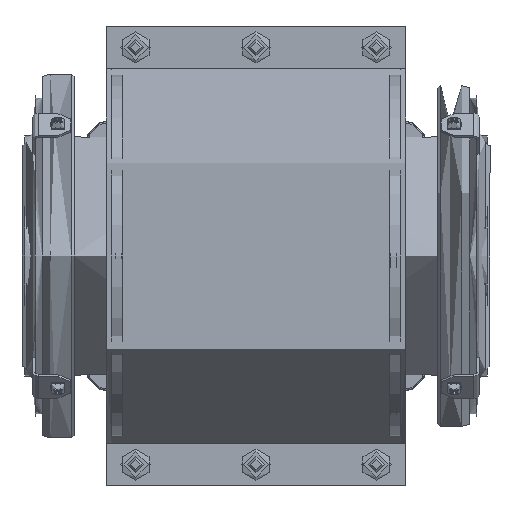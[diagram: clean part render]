
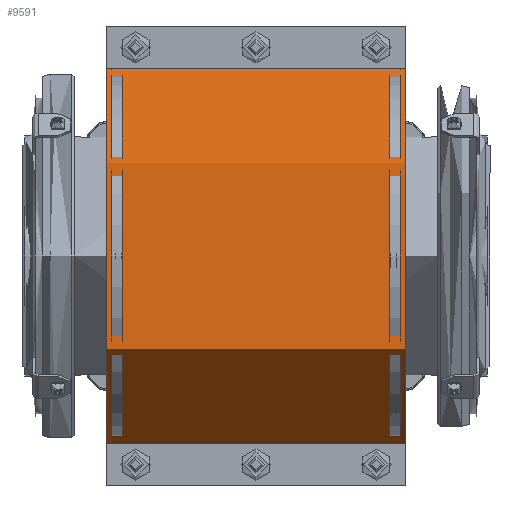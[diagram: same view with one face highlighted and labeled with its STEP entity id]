
A CAD part, front view. The second image highlights one B-rep face of the part: STEP entity #9591.
In plain terms, the highlighted cylindrical face has radius 70 mm (diameter 140 mm), a partial arc.
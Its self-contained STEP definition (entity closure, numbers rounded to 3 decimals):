
#9591=ADVANCED_FACE('',(#29528),#29530,.T.);
#29528=FACE_BOUND('',#29529,.T.);
#29529=EDGE_LOOP('',(#41181,#41182,#41183,#41184,#41185,#41186,#41187,#41188,#41189,
#41190));
#29530=CYLINDRICAL_SURFACE('',#29531,70.);
#29531=AXIS2_PLACEMENT_3D('',#29532,#29533,#29534);
#29532=CARTESIAN_POINT('',(56.,0.,-0.));
#29533=DIRECTION('',(-1.,0.,0.));
#29534=DIRECTION('',(0.,0.,-1.));
#41181=ORIENTED_EDGE('',*,*,#47084,.F.);
#41182=ORIENTED_EDGE('',*,*,#47085,.T.);
#41183=ORIENTED_EDGE('',*,*,#47086,.F.);
#41184=ORIENTED_EDGE('',*,*,#47066,.T.);
#41185=ORIENTED_EDGE('',*,*,#46959,.F.);
#41186=ORIENTED_EDGE('',*,*,#47087,.F.);
#41187=ORIENTED_EDGE('',*,*,#46951,.F.);
#41188=ORIENTED_EDGE('',*,*,#47076,.T.);
#41189=ORIENTED_EDGE('',*,*,#47088,.T.);
#41190=ORIENTED_EDGE('',*,*,#47089,.T.);
#46951=EDGE_CURVE('',#51750,#51752,#51753,.T.);
#46959=EDGE_CURVE('',#51764,#51766,#51767,.F.);
#47066=EDGE_CURVE('',#51940,#51766,#51941,.F.);
#47076=EDGE_CURVE('',#51750,#51952,#51954,.F.);
#47084=EDGE_CURVE('',#51827,#51800,#51967,.F.);
#47085=EDGE_CURVE('',#51827,#51968,#51969,.T.);
#47086=EDGE_CURVE('',#51940,#51968,#51970,.T.);
#47087=EDGE_CURVE('',#51752,#51764,#51971,.T.);
#47088=EDGE_CURVE('',#51952,#51972,#51973,.T.);
#47089=EDGE_CURVE('',#51972,#51800,#51974,.T.);
#51750=VERTEX_POINT('',#66384);
#51752=VERTEX_POINT('',#66388);
#51753=CIRCLE('',#66389,70.);
#51764=VERTEX_POINT('',#66415);
#51766=VERTEX_POINT('',#66419);
#51767=CIRCLE('',#66420,70.);
#51800=VERTEX_POINT('',#66504);
#51827=VERTEX_POINT('',#66567);
#51940=VERTEX_POINT('',#68676);
#51941=LINE('',#68677,#68678);
#51952=VERTEX_POINT('',#68706);
#51954=LINE('',#68710,#68711);
#51967=LINE('',#68741,#68742);
#51968=VERTEX_POINT('',#68744);
#51969=LINE('',#68745,#68746);
#51970=CIRCLE('',#68748,70.);
#51971=LINE('',#68752,#68753);
#51972=VERTEX_POINT('',#68755);
#51973=CIRCLE('',#68756,70.);
#51974=LINE('',#68760,#68761);
#66384=CARTESIAN_POINT('',(54.,-1.,-69.993));
#66388=CARTESIAN_POINT('',(54.,-2.,-69.971));
#66389=AXIS2_PLACEMENT_3D('',#66390,#66391,#66392);
#66390=CARTESIAN_POINT('',(54.,0.,0.));
#66391=DIRECTION('',(-1.,0.,-0.));
#66392=DIRECTION('',(0.,-0.014,-1.));
#66415=CARTESIAN_POINT('',(-54.,-2.,-69.971));
#66419=CARTESIAN_POINT('',(-54.,-1.,-69.993));
#66420=AXIS2_PLACEMENT_3D('',#66421,#66422,#66423);
#66421=CARTESIAN_POINT('',(-54.,0.,0.));
#66422=DIRECTION('',(-1.,0.,0.));
#66423=DIRECTION('',(0.,-0.014,-1.));
#66504=CARTESIAN_POINT('',(54.,-1.,69.993));
#66567=CARTESIAN_POINT('',(-54.,-1.,69.993));
#68676=CARTESIAN_POINT('',(-56.,-1.,-69.993));
#68677=CARTESIAN_POINT('',(-54.,-1.,-69.993));
#68678=VECTOR('',#68679,1.);
#68679=DIRECTION('',(-1.,0.,0.));
#68706=CARTESIAN_POINT('',(56.,-1.,-69.993));
#68710=CARTESIAN_POINT('',(56.,-1.,-69.993));
#68711=VECTOR('',#68712,1.);
#68712=DIRECTION('',(-1.,0.,0.));
#68741=CARTESIAN_POINT('',(54.,-1.,69.993));
#68742=VECTOR('',#68743,1.);
#68743=DIRECTION('',(-1.,0.,0.));
#68744=CARTESIAN_POINT('',(-56.,-1.,69.993));
#68745=CARTESIAN_POINT('',(-54.,-1.,69.993));
#68746=VECTOR('',#68747,1.);
#68747=DIRECTION('',(-1.,0.,0.));
#68748=AXIS2_PLACEMENT_3D('',#68749,#68750,#68751);
#68749=CARTESIAN_POINT('',(-56.,0.,0.));
#68750=DIRECTION('',(-1.,0.,0.));
#68751=DIRECTION('',(0.,-0.014,-1.));
#68752=CARTESIAN_POINT('',(54.,-2.,-69.971));
#68753=VECTOR('',#68754,1.);
#68754=DIRECTION('',(-1.,0.,0.));
#68755=CARTESIAN_POINT('',(56.,-1.,69.993));
#68756=AXIS2_PLACEMENT_3D('',#68757,#68758,#68759);
#68757=CARTESIAN_POINT('',(56.,0.,0.));
#68758=DIRECTION('',(-1.,0.,0.));
#68759=DIRECTION('',(0.,-0.014,-1.));
#68760=CARTESIAN_POINT('',(56.,-1.,69.993));
#68761=VECTOR('',#68762,1.);
#68762=DIRECTION('',(-1.,0.,0.));
